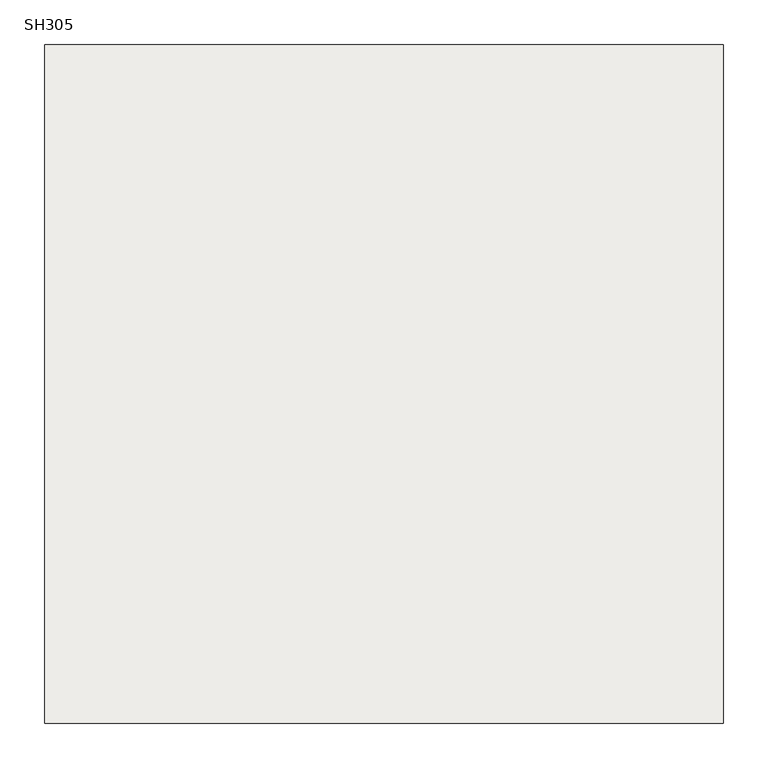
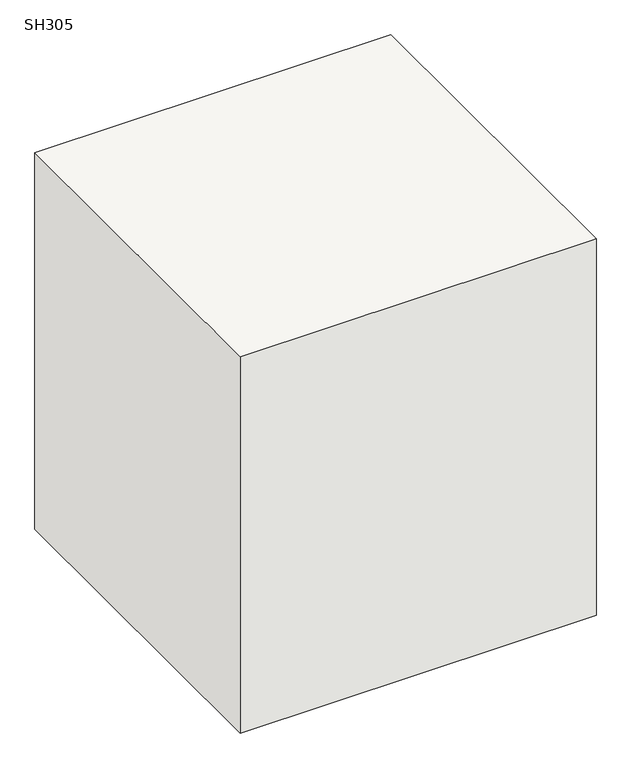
"""IFC4 building model written with IfcOpenShell, lengths in millimetres: slab geometry, 柱形_SH : SH305."""

import ifcopenshell
import ifcopenshell.guid

model = None  # the IFC model being written
_history = None  # IfcOwnerHistory: only IFC2X3 demands one
_inside = {}  # id of a spatial element -> (the spatial element, [elements in it])
_under = {}  # id of a project, library or spatial element -> (it, [spatial elements below it])
_declared = {}  # id of a project -> (the project, [libraries it declares])
_typed = {}  # id of a type object -> (the type object, [elements of that type])
_made_of = {}  # id of a material, layer set ... -> (it, [elements and type objects made of it])


def new_model(schema):
    """Start an empty IFC model of exactly this schema.

    Asked for "IFC4X3", IfcOpenShell would pick the latest addendum, in which some entities
    have other attributes; the version numbers below select the first issue.
    IFC2X3 requires an IfcOwnerHistory on every rooted entity: one is made here for all.
    """
    global model, _history
    if schema == "IFC4X3":
        model = ifcopenshell.file(schema_version=(4, 3, 0, 0))
    else:
        model = ifcopenshell.file(schema=schema)
    _inside.clear()
    _under.clear()
    _declared.clear()
    _typed.clear()
    _made_of.clear()
    _history = None
    if model.schema == "IFC2X3":
        org = make("IfcOrganization", Name="unknown")
        user = make(
            "IfcPersonAndOrganization",
            ThePerson=make("IfcPerson", FamilyName="unknown"),
            TheOrganization=org,
        )
        app = make(
            "IfcApplication",
            ApplicationDeveloper=org,
            Version="unknown",
            ApplicationFullName="unknown",
            ApplicationIdentifier="unknown",
        )
        _history = make(
            "IfcOwnerHistory",
            OwningUser=user,
            OwningApplication=app,
            ChangeAction="ADDED",
            CreationDate=0,
        )
    return model


def make(cls, **values):
    """One entity of the class cls with the attributes given. An attribute that is None is left unset."""
    return model.create_entity(
        cls, **{name: value for name, value in values.items() if value is not None}
    )


def rooted(cls, **values):
    """An entity with a GlobalId (a new one), such as an element, a storey or a relation."""
    return make(cls, GlobalId=ifcopenshell.guid.new(), OwnerHistory=_history, **values)


def si_unit(unit_type, name, prefix=None):
    """IfcSIUnit, for example si_unit("LENGTHUNIT", "METRE", prefix="MILLI")."""
    return make("IfcSIUnit", UnitType=unit_type, Prefix=prefix, Name=name)


def assignment(units):
    """IfcUnitAssignment: the units of a project."""
    return None if units is None else make("IfcUnitAssignment", Units=units)


def point(xyz):
    """IfcCartesianPoint."""
    return None if xyz is None else make("IfcCartesianPoint", Coordinates=xyz)


def direction(xyz):
    """IfcDirection."""
    return None if xyz is None else make("IfcDirection", DirectionRatios=xyz)


def frame(location, z_axis=None, x_axis=None):
    """IfcAxis2Placement3D, a coordinate frame: its origin and axes. An axis left out is left unset."""
    return make(
        "IfcAxis2Placement3D",
        Location=point(location),
        Axis=direction(z_axis),
        RefDirection=direction(x_axis),
    )


def origin():
    """The frame at (0, 0, 0) with its axes left unset."""
    return frame((0.0, 0.0, 0.0))


def place(relative_to, where):
    """IfcLocalPlacement: puts the frame where relative to a parent placement (None: the world)."""
    return make(
        "IfcLocalPlacement", PlacementRelTo=relative_to, RelativePlacement=where
    )


def context(
    kind, dimensions, precision=None, world=None, true_north=None, identifier=None
):
    """IfcGeometricRepresentationContext, for example the 3D "Model" context."""
    return make(
        "IfcGeometricRepresentationContext",
        ContextIdentifier=identifier,
        ContextType=kind,
        CoordinateSpaceDimension=dimensions,
        Precision=precision,
        WorldCoordinateSystem=world,
        TrueNorth=true_north,
    )


def project(units=None, contexts=None):
    """IfcProject with its units and contexts."""
    return rooted(
        "IfcProject",
        Name="project",
        RepresentationContexts=contexts,
        UnitsInContext=assignment(units),
    )


def spatial(cls, under=None, at=None, **own):
    """A site, building, storey or space (cls), placed at a placement, below another one or the project."""
    s = rooted(cls, ObjectPlacement=at, **own)
    if under is not None:
        _under.setdefault(under.id(), (under, []))[1].append(s)
    return s


def polyline(points):
    """IfcPolyline through the points."""
    return make("IfcPolyline", Points=[point(p) for p in points])


def outline(outer, holes=None, kind="AREA"):
    """IfcArbitraryClosedProfileDef: a profile drawn as a closed curve; with holes, ...WithVoids."""
    if holes is None:
        return make("IfcArbitraryClosedProfileDef", ProfileType=kind, OuterCurve=outer)
    return make(
        "IfcArbitraryProfileDefWithVoids",
        ProfileType=kind,
        OuterCurve=outer,
        InnerCurves=holes,
    )


def extrude(swept, where, along, depth):
    """IfcExtrudedAreaSolid: the profile swept, set in the frame where, extruded along a direction by depth."""
    return make(
        "IfcExtrudedAreaSolid",
        SweptArea=swept,
        Position=where,
        ExtrudedDirection=direction(along),
        Depth=depth,
    )


def shape(context_of_items, identifier, shape_type, items):
    """IfcShapeRepresentation: the items that make up one representation, for example the "Body"."""
    return make(
        "IfcShapeRepresentation",
        ContextOfItems=context_of_items,
        RepresentationIdentifier=identifier,
        RepresentationType=shape_type,
        Items=items,
    )


def source(mapping_origin, context_of_items, identifier, shape_type, items):
    """IfcRepresentationMap: a shape defined once, which mapped items show again and again."""
    return make(
        "IfcRepresentationMap",
        MappingOrigin=mapping_origin,
        MappedRepresentation=shape(context_of_items, identifier, shape_type, items),
    )


def transform(
    local_origin,
    x_axis=None,
    y_axis=None,
    z_axis=None,
    scale=None,
    scale2=None,
    scale3=None,
    uniform=True,
):
    """IfcCartesianTransformationOperator3D, or its non-uniform kind. x_axis, y_axis, z_axis: its Axis1, 2, 3."""
    if uniform:
        return make(
            "IfcCartesianTransformationOperator3D",
            Axis1=direction(x_axis),
            Axis2=direction(y_axis),
            LocalOrigin=point(local_origin),
            Scale=scale,
            Axis3=direction(z_axis),
        )
    return make(
        "IfcCartesianTransformationOperator3DnonUniform",
        Axis1=direction(x_axis),
        Axis2=direction(y_axis),
        LocalOrigin=point(local_origin),
        Scale=scale,
        Axis3=direction(z_axis),
        Scale2=scale2,
        Scale3=scale3,
    )


def mapped(mapping_source, mapping_target):
    """IfcMappedItem: shows the shape of a source again, moved by a transform."""
    return make(
        "IfcMappedItem", MappingSource=mapping_source, MappingTarget=mapping_target
    )


def made_of(thing, what):
    """Note that an element or type object is made of a material, layer set ...; save() writes the relation."""
    if what is not None:
        _made_of.setdefault(what.id(), (what, []))[1].append(thing)
    return thing


def element(
    cls,
    number,
    at=None,
    inside=None,
    cuts=None,
    type_object=None,
    material=None,
    context=None,
    identifier="Body",
    shape_type=None,
    held_by="IfcProductDefinitionShape",
    body=None,
    shapes=None,
    **own,
):
    """One element of the class cls, such as IfcWall. Its Tag is "e" and its number.

    at: its placement. inside: the storey or other place that contains it. cuts: it is an
    opening in that element (IfcRelVoidsElement). A single representation is given by context,
    identifier, shape_type and body (its items); several are given by shapes. held_by: the class
    of the entity that holds the representations. save() writes the other relations.
    """
    e = rooted(cls, Tag="e%d" % number, ObjectPlacement=at, **own)
    if body is not None:
        shapes = [shape(context, identifier, shape_type, body)]
    if shapes is not None:
        e.Representation = make(held_by, Representations=shapes)
    if inside is not None:
        _inside.setdefault(inside.id(), (inside, []))[1].append(e)
    if cuts is not None:
        rooted(
            "IfcRelVoidsElement", RelatingBuildingElement=cuts, RelatedOpeningElement=e
        )
    if type_object is not None:
        _typed.setdefault(type_object.id(), (type_object, []))[1].append(e)
    return made_of(e, material)


def aggregate(whole, parts):
    """IfcRelAggregates: a whole, such as a stair, and the parts it consists of."""
    return rooted("IfcRelAggregates", RelatingObject=whole, RelatedObjects=parts)


def save(model, path):
    """Write the relations noted so far, then the file.

    IfcRelAggregates (storeys below a building ...), IfcRelContainedInSpatialStructure (elements
    in a storey), IfcRelDefinesByType, IfcRelAssociatesMaterial and IfcRelDeclares: one each for
    every whole, place, type object, material and project.
    """
    for whole, parts in _under.values():
        aggregate(whole, parts)
    for where, things in _inside.values():
        rooted(
            "IfcRelContainedInSpatialStructure",
            RelatedElements=things,
            RelatingStructure=where,
        )
    for kind, things in _typed.values():
        rooted("IfcRelDefinesByType", RelatedObjects=things, RelatingType=kind)
    for what, things in _made_of.values():
        rooted("IfcRelAssociatesMaterial", RelatedObjects=things, RelatingMaterial=what)
    for by, libraries in _declared.values():
        rooted("IfcRelDeclares", RelatingContext=by, RelatedDefinitions=libraries)
    model.write(path)


def sh305_3eef8231(model_context):
    return source(origin(), model_context, "Body", "SweptSolid", [
        extrude(outline(polyline([(380.0, 380.0), (380.0, -380.0), (-380.0, -380.0), (-380.0, 380.0), (380.0, 380.0)])), frame((0.0, 0.0, -850.0), z_axis=(0.0, 0.0, 1.0), x_axis=(1.0, 0.0, 0.0)), (0.0, 0.0, 1.0), 850.0),
    ])


if __name__ == "__main__":
    model = new_model("IFC4")
    model_context = context("Model", 3, world=origin())
    ifc_project = project(units=[si_unit("LENGTHUNIT", "METRE", prefix="MILLI")], contexts=[model_context])
    site = spatial("IfcSite", under=ifc_project)
    building = spatial("IfcBuilding", under=site)
    placement = place(None, origin())
    sh305_shape = sh305_3eef8231(model_context)
    element("IfcSlab", 1, ObjectType="柱形_SH : SH305", at=placement, inside=building, context=model_context, shape_type="MappedRepresentation", body=[
        mapped(sh305_shape, transform((0.0, 0.0, 0.0), x_axis=(1.0, 0.0, 0.0), y_axis=(0.0, 1.0, 0.0), z_axis=(0.0, 0.0, 1.0))),
    ])
    save(model, "model.ifc")
